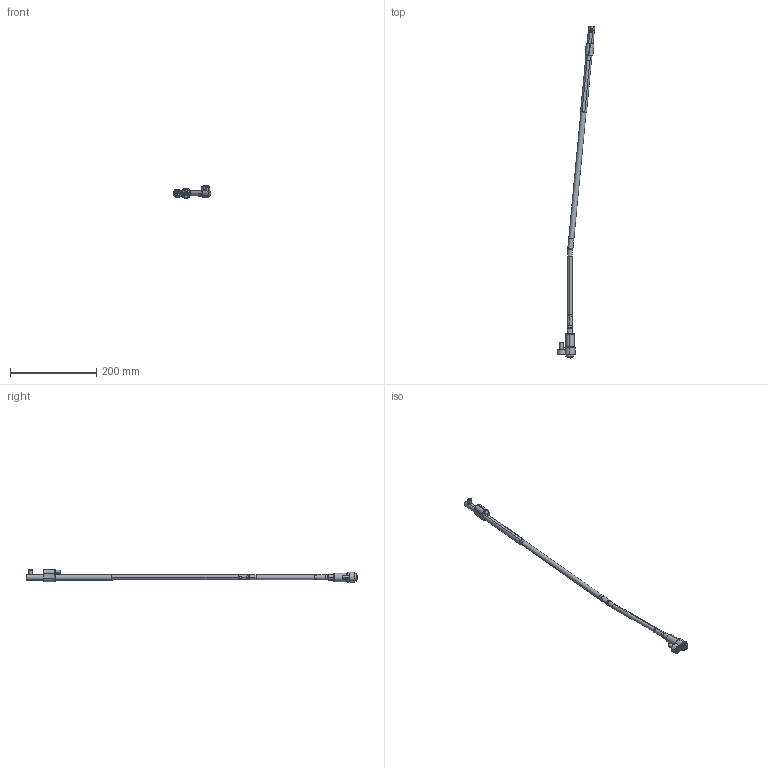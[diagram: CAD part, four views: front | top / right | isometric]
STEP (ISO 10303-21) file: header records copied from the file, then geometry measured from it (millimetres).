
FILE_DESCRIPTION (( 'STEP AP214' ), '1' );
FILE_NAME ('WL120125-INJ 5,5°.STEP', '2021-03-19T15:40:27', ( '' ), ( '' ), 'SwSTEP 2.0', 'SolidWorks 2019', '' );
FILE_SCHEMA (( 'AUTOMOTIVE_DESIGN' ));
Length unit declared in the file: millimetre
Products named in the file (17): WL120100-E; WL120100-B1; Web-WL12-A1; WL120100-D; 1DIN912820_DIN 912 M8 x 20 --- 20C; Web-WL12-A3; Web-WL12-XX_OFF-WL120125-5,5; 3IMAN5X3-150_con sellador; 9DR2808-TOR; 1DIN912645_DIN 912 M6 x 45 --- 45C; Web-WL12-A2; WL120100-B; Web-WL12-A8; Web-WL12-F01; 8WL12EJEP; Web-WL12-F00.SLDPRT; WL120125-INJ 5,5°
Assembly tree (16 placements, depth 3):
  WL120125-INJ 5,5°
    Web-WL12-A8
    Web-WL12-XX_OFF-WL120125-5,5
    Web-WL12-A3
    Web-WL12-A2
    Web-WL12-A1
    Web-WL12-F00.SLDPRT
      Web-WL12-F01
      1DIN912820_DIN 912 M8 x 20 --- 20C
      1DIN912645_DIN 912 M6 x 45 --- 45C
    WL120100-D
    8WL12EJEP
    WL120100-E
    9DR2808-TOR
    WL120100-B
      WL120100-B1
      3IMAN5X3-150_con sellador
Bounding box: 87 x 771.18 x 29.9 mm (x, y, z)
Volume: 116545.2 mm3; surface area: 51028.8 mm2
Topology: 15 solids, 15 shells, 432 faces, 906 edges, 525 vertices
Faces by surface type: plane 139, cylinder 123, cone 120, torus 50
Entity records: 13661 total; most frequent: DIRECTION 2240, CARTESIAN_POINT 2104, ORIENTED_EDGE 1788, AXIS2_PLACEMENT_3D 929, EDGE_CURVE 894, VERTEX_POINT 525, EDGE_LOOP 477, CIRCLE 476
